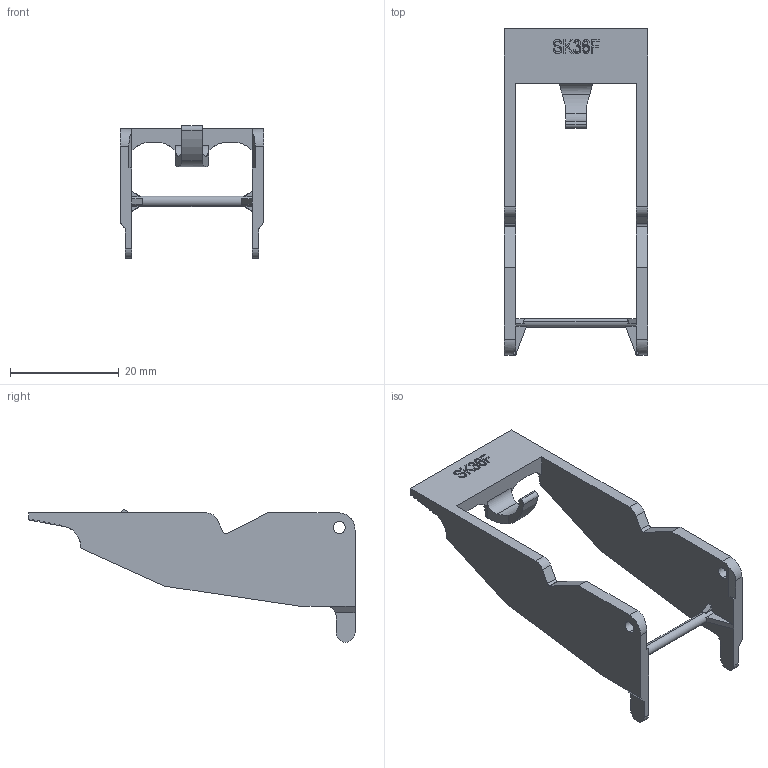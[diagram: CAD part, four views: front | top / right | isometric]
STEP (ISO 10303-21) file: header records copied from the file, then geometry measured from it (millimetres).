
FILE_DESCRIPTION (( 'STEP AP203' ), '1' );
FILE_NAME ('SK36F °â¿Û.STEP', '2019-05-07T07:33:38', ( 'shenler' ), ( 'Microsoft' ), 'SwSTEP 2.0', 'SolidWorks 2017', '' );
FILE_SCHEMA (( 'CONFIG_CONTROL_DESIGN' ));
Length unit declared in the file: millimetre
Products named in the file (1): SK36F 售諶
Bounding box: 26.4 x 60 x 24.36 mm (x, y, z)
Volume: 3681.2 mm3; surface area: 4401.6 mm2
Topology: 1 solids, 1 shells, 191 faces, 547 edges, 362 vertices
Faces by surface type: plane 96, cylinder 54, bspline 41
Entity records: 8518 total; most frequent: CARTESIAN_POINT 3678, ORIENTED_EDGE 1094, DIRECTION 853, EDGE_CURVE 547, VERTEX_POINT 362, VECTOR 331, LINE 331, AXIS2_PLACEMENT_3D 261
